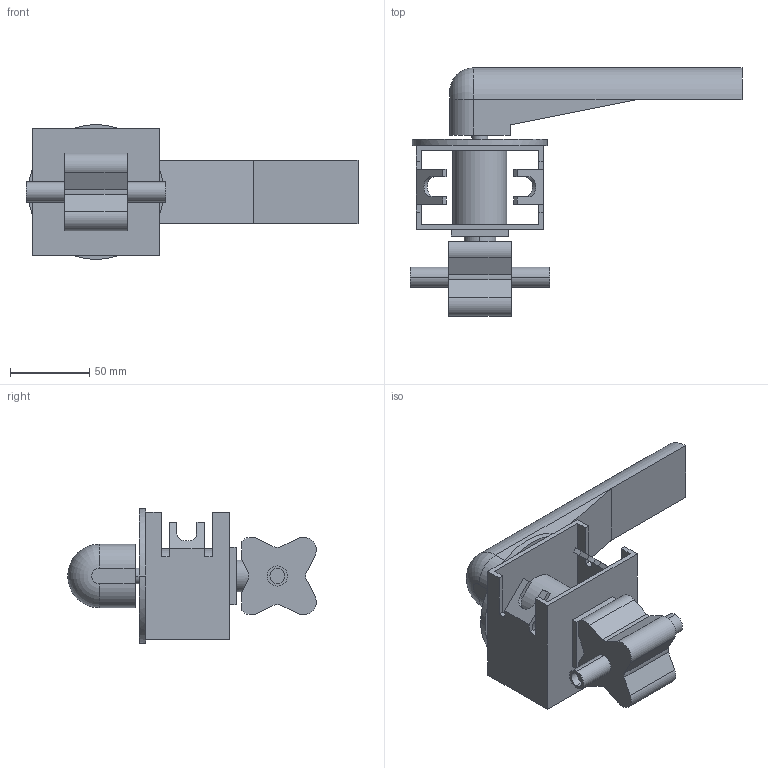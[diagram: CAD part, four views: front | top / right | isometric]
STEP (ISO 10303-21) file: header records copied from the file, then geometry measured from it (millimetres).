
FILE_DESCRIPTION(('Creo Elements/Direct Modeling STEP Export'),'2;1');
FILE_NAME('BLV1-0.5T-HL-12S.stp','2019-05-10T 7:41:06',(''),(''),'Creo Elements/Direct Modeling STEP processor for AP214 (Solid Model)','Creo Elements/Direct Modeling 19.0F 14-Feb-2017 (C) Parametric Technology GmbH','');
FILE_SCHEMA(('AUTOMOTIVE_DESIGN { 1 0 10303 214 1 1 1 1 }'));
Length unit declared in the file: millimetre
Products named in the file (2): BLV1-0.5T-HL-12S
Assembly tree (1 placements, depth 2):
  BLV1-0.5T-HL-12S
    BLV1-0.5T-HL-12S
Bounding box: 209 x 156.46 x 85 mm (x, y, z)
Volume: 381833.1 mm3; surface area: 83061.3 mm2
Topology: 1 solids, 1 shells, 103 faces, 270 edges, 176 vertices
Faces by surface type: plane 72, cylinder 30, torus 1
Entity records: 3025 total; most frequent: ORIENTED_EDGE 540, CARTESIAN_POINT 532, DIRECTION 471, EDGE_CURVE 270, VECTOR 189, LINE 189, VERTEX_POINT 176, AXIS2_PLACEMENT_3D 141
